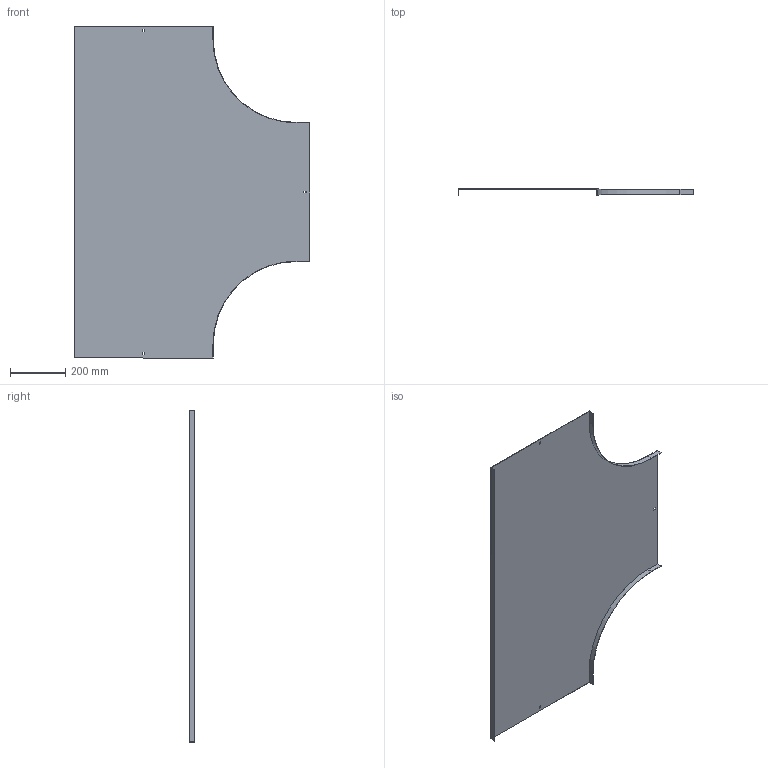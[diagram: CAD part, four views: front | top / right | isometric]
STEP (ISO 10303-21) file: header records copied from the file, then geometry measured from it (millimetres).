
FILE_DESCRIPTION (( 'STEP AP214' ), '1' );
FILE_NAME ('B2_15N3R500.step', '2025-02-21T12:07:11', ( '' ), ( '' ), 'SwSTEP 2.0', 'SolidWorks 2023', '' );
FILE_SCHEMA (( 'AUTOMOTIVE_DESIGN' ));
Length unit declared in the file: millimetre
Products named in the file (1): B2_15N3R500
Bounding box: 851.5 x 20 x 1200 mm (x, y, z)
Volume: 1290382.9 mm3; surface area: 1726586.7 mm2
Topology: 1 solids, 1 shells, 34 faces, 96 edges, 64 vertices
Faces by surface type: plane 30, cylinder 4
Entity records: 1123 total; most frequent: CARTESIAN_POINT 195, ORIENTED_EDGE 192, DIRECTION 174, EDGE_CURVE 96, LINE 88, VECTOR 88, VERTEX_POINT 64, AXIS2_PLACEMENT_3D 43
